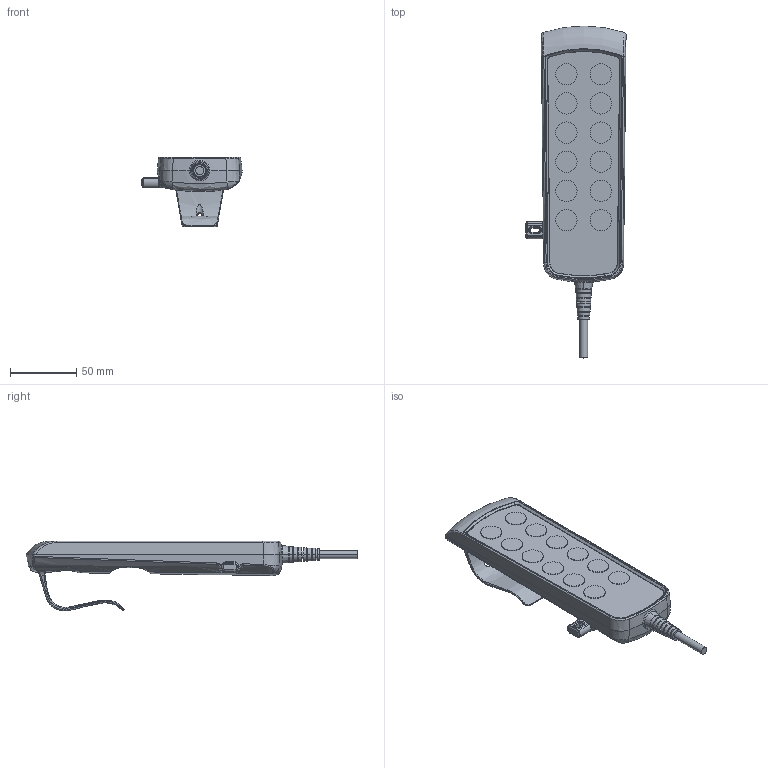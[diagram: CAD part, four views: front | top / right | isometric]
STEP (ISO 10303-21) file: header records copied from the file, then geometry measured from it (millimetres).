
FILE_DESCRIPTION (( 'STEP AP203' ), '1' );
FILE_NAME ('3D-TH12-WithSafetyKey.STEP', '2011-10-27T02:14:47', ( 'Jeremy' ), ( '' ), 'SwSTEP 2.0', 'SolidWorks 2010', '' );
FILE_SCHEMA (( 'CONFIG_CONTROL_DESIGN' ));
Length unit declared in the file: millimetre
Products named in the file (5): 3D-TH12-WithSafetyKey; 上蓋; TH12-掛勾; 40510-027-SR-A; TH12_KEY Hole
Assembly tree (4 placements, depth 2):
  3D-TH12-WithSafetyKey
    TH12_KEY Hole
    TH12-掛勾
    上蓋
    40510-027-SR-A
Bounding box: 75.46 x 250.28 x 52.33 mm (x, y, z)
Volume: 250211.3 mm3; surface area: 68150.7 mm2
Topology: 4 solids, 4 shells, 471 faces, 1119 edges, 669 vertices
Faces by surface type: bspline 193, plane 110, cylinder 87, torus 41, cone 38, sphere 2
Entity records: 36704 total; most frequent: CARTESIAN_POINT 26504, ORIENTED_EDGE 2222, DIRECTION 1675, EDGE_CURVE 1111, AXIS2_PLACEMENT_3D 706, VERTEX_POINT 669, EDGE_LOOP 496, ADVANCED_FACE 471
